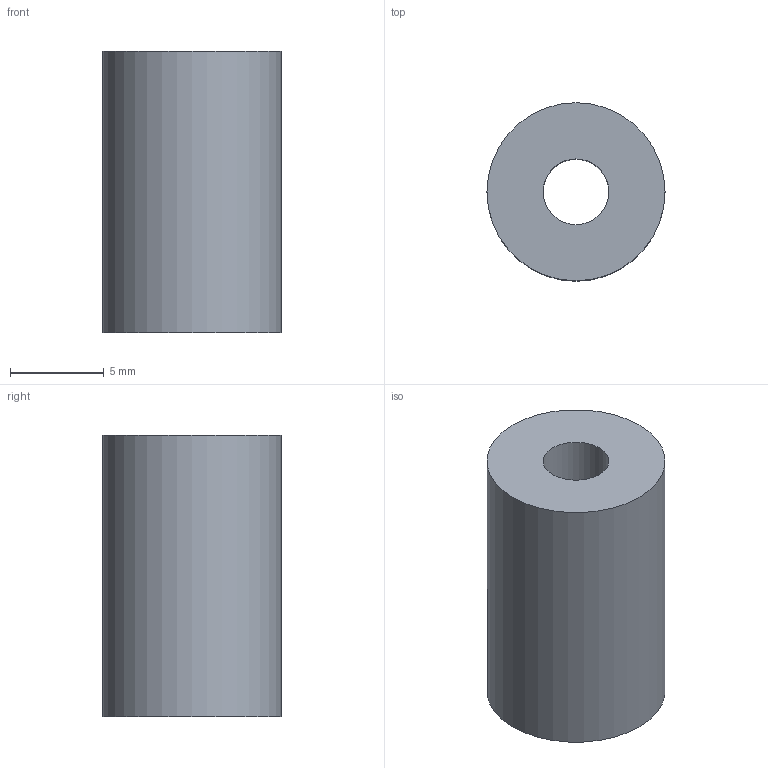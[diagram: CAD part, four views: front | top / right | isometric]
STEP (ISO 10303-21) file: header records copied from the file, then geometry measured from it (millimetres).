
FILE_DESCRIPTION(/* description */ (''),/* implementation_level */ '2;1');
FILE_NAME(/* name */ 'C:/Users/Ulises/Desktop/T1/mecanica_cad/espaciador15.step',/* time_stamp */ '2020-10-16T01:30:22-03:00',/* author */ (''),/* organization */ (''),/* preprocessor_version */ 'ST-DEVELOPER v18.1',/* originating_system */ 'Autodesk Translation Framework v9.3.0.1241',/* authorisation */ '');
FILE_SCHEMA (('AUTOMOTIVE_DESIGN { 1 0 10303 214 3 1 1 }'));
Length unit declared in the file: millimetre
Products named in the file (1): espaciador15
Bounding box: 9.5 x 9.5 x 15 mm (x, y, z)
Volume: 918.9 mm3; surface area: 735.1 mm2
Topology: 1 solids, 1 shells, 4 faces, 6 edges, 4 vertices
Faces by surface type: cylinder 2, plane 2
Full cylindrical faces by diameter (mm): 3.5 x1, 9.5 x1
Entity records: 138 total; most frequent: DIRECTION 20, CARTESIAN_POINT 15, ORIENTED_EDGE 12, AXIS2_PLACEMENT_3D 9, EDGE_LOOP 6, EDGE_CURVE 6, FACE_OUTER_BOUND 4, CIRCLE 4
